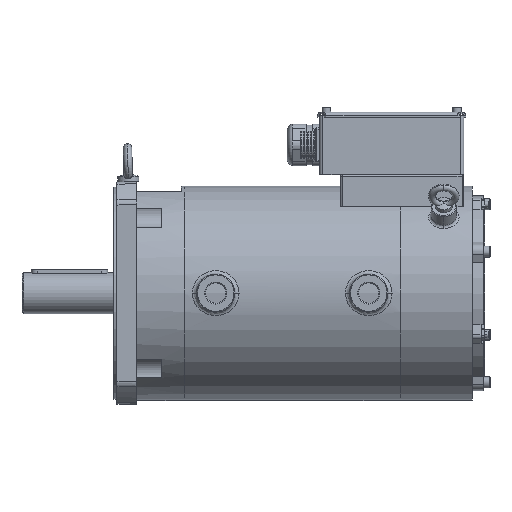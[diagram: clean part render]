
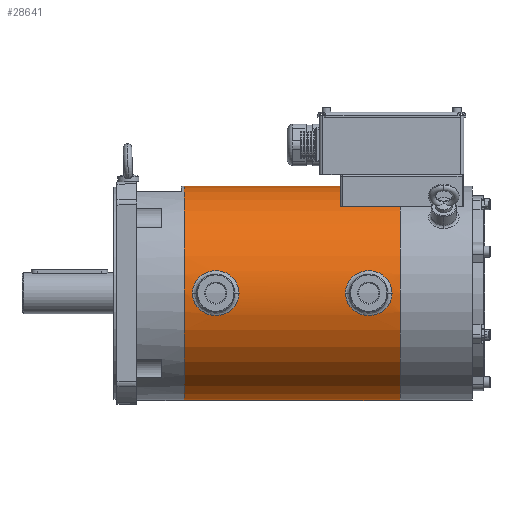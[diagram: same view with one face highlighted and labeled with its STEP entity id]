
A CAD part, top view. The second image highlights one B-rep face of the part: STEP entity #28641.
In plain terms, the highlighted cylindrical face has radius 126.5 mm (diameter 253 mm), a partial arc.
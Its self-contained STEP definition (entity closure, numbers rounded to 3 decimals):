
#24334=DIRECTION('',(-1.,0.,0.));
#24335=VECTOR('',#24334,254.5);
#24336=CARTESIAN_POINT('',(446.,126.5,
0.011));
#24337=LINE('',#24336,#24335);
#24455=CARTESIAN_POINT('',(446.,0.,
0.));
#24456=DIRECTION('',(1.,0.,0.));
#24457=DIRECTION('',(0.,1.,0.));
#24458=AXIS2_PLACEMENT_3D('',#24455,#24456,#24457);
#24460=DIRECTION('',(-1.,0.,0.));
#24461=VECTOR('',#24460,254.5);
#24462=CARTESIAN_POINT('',(446.,-126.5,
-0.011));
#24463=LINE('',#24462,#24461);
#24464=CARTESIAN_POINT('',(191.5,0.,
0.));
#24465=DIRECTION('',(-1.,0.,0.));
#24466=DIRECTION('',(0.,-1.,0.));
#24467=AXIS2_PLACEMENT_3D('',#24464,#24465,#24466);
#24469=CARTESIAN_POINT('',(381.5,-0.011,
126.5));
#24470=CARTESIAN_POINT('',(381.5,-1.744,
126.5));
#24471=CARTESIAN_POINT('',(381.85,-5.13,
126.429));
#24472=CARTESIAN_POINT('',(383.346,-9.984,
126.135));
#24473=CARTESIAN_POINT('',(385.817,-14.55,
125.686));
#24474=CARTESIAN_POINT('',(389.203,-18.619,
125.141));
#24475=CARTESIAN_POINT('',(393.393,-22.003,
124.584));
#24476=CARTESIAN_POINT('',(398.194,-24.525,
124.106));
#24477=CARTESIAN_POINT('',(403.402,-26.087,
123.782));
#24478=CARTESIAN_POINT('',(408.83,-26.637,
123.663));
#24479=CARTESIAN_POINT('',(414.267,-26.152,
123.768));
#24480=CARTESIAN_POINT('',(419.513,-24.643,
124.082));
#24481=CARTESIAN_POINT('',(424.335,-22.179,
124.552));
#24482=CARTESIAN_POINT('',(428.536,-18.863,
125.103));
#24483=CARTESIAN_POINT('',(431.891,-14.963,
125.636));
#24484=CARTESIAN_POINT('',(434.502,-10.379,
126.106));
#24485=CARTESIAN_POINT('',(436.144,-5.241,
126.427));
#24486=CARTESIAN_POINT('',(436.5,-1.778,
126.5));
#24487=CARTESIAN_POINT('',(436.5,-0.011,
126.5));
#24489=CARTESIAN_POINT('',(436.5,-0.011,
126.5));
#24490=CARTESIAN_POINT('',(436.5,1.721,126.5));
#24491=CARTESIAN_POINT('',(436.15,5.108,126.429));
#24492=CARTESIAN_POINT('',(434.654,9.962,126.137));
#24493=CARTESIAN_POINT('',(432.183,14.529,125.688));
#24494=CARTESIAN_POINT('',(428.796,18.599,125.144));
#24495=CARTESIAN_POINT('',(424.606,21.982,124.588));
#24496=CARTESIAN_POINT('',(419.806,24.503,124.11));
#24497=CARTESIAN_POINT('',(414.598,26.066,123.787));
#24498=CARTESIAN_POINT('',(409.17,26.616,123.668));
#24499=CARTESIAN_POINT('',(403.734,26.131,123.773));
#24500=CARTESIAN_POINT('',(398.489,24.622,124.086));
#24501=CARTESIAN_POINT('',(393.666,22.158,124.556));
#24502=CARTESIAN_POINT('',(389.465,18.842,125.107));
#24503=CARTESIAN_POINT('',(386.11,14.942,125.638));
#24504=CARTESIAN_POINT('',(383.498,10.357,126.108));
#24505=CARTESIAN_POINT('',(381.856,5.219,126.428));
#24506=CARTESIAN_POINT('',(381.5,1.756,126.5));
#24507=CARTESIAN_POINT('',(381.5,-0.011,
126.5));
#24509=CARTESIAN_POINT('',(201.,-0.011,
126.5));
#24510=CARTESIAN_POINT('',(201.,-1.744,
126.5));
#24511=CARTESIAN_POINT('',(201.35,-5.13,
126.429));
#24512=CARTESIAN_POINT('',(202.846,-9.984,
126.135));
#24513=CARTESIAN_POINT('',(205.317,-14.55,
125.686));
#24514=CARTESIAN_POINT('',(208.703,-18.619,
125.141));
#24515=CARTESIAN_POINT('',(212.893,-22.003,
124.584));
#24516=CARTESIAN_POINT('',(217.694,-24.525,
124.106));
#24517=CARTESIAN_POINT('',(222.902,-26.087,
123.782));
#24518=CARTESIAN_POINT('',(228.33,-26.637,
123.663));
#24519=CARTESIAN_POINT('',(233.767,-26.152,
123.768));
#24520=CARTESIAN_POINT('',(239.013,-24.643,
124.082));
#24521=CARTESIAN_POINT('',(243.835,-22.179,
124.552));
#24522=CARTESIAN_POINT('',(248.036,-18.863,
125.103));
#24523=CARTESIAN_POINT('',(251.391,-14.963,
125.636));
#24524=CARTESIAN_POINT('',(254.002,-10.379,
126.106));
#24525=CARTESIAN_POINT('',(255.644,-5.241,
126.427));
#24526=CARTESIAN_POINT('',(256.,-1.778,
126.5));
#24527=CARTESIAN_POINT('',(256.,-0.011,
126.5));
#24529=CARTESIAN_POINT('',(256.,-0.011,
126.5));
#24530=CARTESIAN_POINT('',(256.,1.721,126.5));
#24531=CARTESIAN_POINT('',(255.65,5.108,126.429));
#24532=CARTESIAN_POINT('',(254.154,9.962,126.137));
#24533=CARTESIAN_POINT('',(251.683,14.529,125.688));
#24534=CARTESIAN_POINT('',(248.296,18.599,125.144));
#24535=CARTESIAN_POINT('',(244.106,21.982,124.588));
#24536=CARTESIAN_POINT('',(239.306,24.503,124.11));
#24537=CARTESIAN_POINT('',(234.098,26.066,123.787));
#24538=CARTESIAN_POINT('',(228.67,26.616,123.668));
#24539=CARTESIAN_POINT('',(223.234,26.131,123.773));
#24540=CARTESIAN_POINT('',(217.989,24.622,124.086));
#24541=CARTESIAN_POINT('',(213.166,22.158,124.556));
#24542=CARTESIAN_POINT('',(208.965,18.842,125.107));
#24543=CARTESIAN_POINT('',(205.61,14.942,125.638));
#24544=CARTESIAN_POINT('',(202.998,10.357,126.108));
#24545=CARTESIAN_POINT('',(201.356,5.219,126.428));
#24546=CARTESIAN_POINT('',(201.,1.756,126.5));
#24547=CARTESIAN_POINT('',(201.,-0.011,
126.5));
#28344=CARTESIAN_POINT('',(446.,126.5,
0.011));
#28345=CARTESIAN_POINT('',(446.,-126.5,
-0.011));
#28346=VERTEX_POINT('',#28344);
#28347=VERTEX_POINT('',#28345);
#28348=CARTESIAN_POINT('',(191.5,126.5,
0.011));
#28349=CARTESIAN_POINT('',(191.5,-126.5,
-0.011));
#28350=VERTEX_POINT('',#28348);
#28351=VERTEX_POINT('',#28349);
#28548=VERTEX_POINT('',#24469);
#28549=VERTEX_POINT('',#24487);
#28552=VERTEX_POINT('',#24509);
#28553=VERTEX_POINT('',#24527);
#28616=CARTESIAN_POINT('',(446.,0.,
0.));
#28617=DIRECTION('',(-1.,0.,0.));
#28618=DIRECTION('',(0.,1.,0.));
#28619=AXIS2_PLACEMENT_3D('',#28616,#28617,#28618);
#28620=CYLINDRICAL_SURFACE('',#28619,126.5);
#28622=ORIENTED_EDGE('',*,*,#28621,.T.);
#28623=ORIENTED_EDGE('',*,*,#28599,.T.);
#28625=ORIENTED_EDGE('',*,*,#28624,.T.);
#28626=ORIENTED_EDGE('',*,*,#28595,.F.);
#28627=EDGE_LOOP('',(#28622,#28623,#28625,#28626));
#28628=FACE_OUTER_BOUND('',#28627,.F.);
#28630=ORIENTED_EDGE('',*,*,#28629,.T.);
#28632=ORIENTED_EDGE('',*,*,#28631,.T.);
#28633=EDGE_LOOP('',(#28630,#28632));
#28634=FACE_BOUND('',#28633,.F.);
#28636=ORIENTED_EDGE('',*,*,#28635,.T.);
#28638=ORIENTED_EDGE('',*,*,#28637,.T.);
#28639=EDGE_LOOP('',(#28636,#28638));
#28640=FACE_BOUND('',#28639,.F.);
#28641=ADVANCED_FACE('',(#28628,#28634,#28640),#28620,.T.);
#24459=CIRCLE('',#24458,126.5);
#24468=CIRCLE('',#24467,126.5);
#24488=B_SPLINE_CURVE_WITH_KNOTS('',3,(#24469,#24470,#24471,#24472,#24473,
#24474,#24475,#24476,#24477,#24478,#24479,#24480,#24481,#24482,#24483,#24484,
#24485,#24486,#24487),.UNSPECIFIED.,.F.,.F.,(4,1,1,1,1,1,1,1,1,1,1,1,1,1,1,1,4),
(0.,0.063,0.125,0.188,0.25,0.313,0.375,0.438,0.5,0.563,
0.625,0.688,0.75,0.813,0.875,0.938,1.),.UNSPECIFIED.);
#24508=B_SPLINE_CURVE_WITH_KNOTS('',3,(#24489,#24490,#24491,#24492,#24493,
#24494,#24495,#24496,#24497,#24498,#24499,#24500,#24501,#24502,#24503,#24504,
#24505,#24506,#24507),.UNSPECIFIED.,.F.,.F.,(4,1,1,1,1,1,1,1,1,1,1,1,1,1,1,1,4),
(0.,0.063,0.125,0.188,0.25,0.313,0.375,0.438,0.5,0.563,
0.625,0.688,0.75,0.813,0.875,0.938,1.),.UNSPECIFIED.);
#24528=B_SPLINE_CURVE_WITH_KNOTS('',3,(#24509,#24510,#24511,#24512,#24513,
#24514,#24515,#24516,#24517,#24518,#24519,#24520,#24521,#24522,#24523,#24524,
#24525,#24526,#24527),.UNSPECIFIED.,.F.,.F.,(4,1,1,1,1,1,1,1,1,1,1,1,1,1,1,1,4),
(0.,0.063,0.125,0.188,0.25,0.313,0.375,0.438,0.5,0.563,
0.625,0.688,0.75,0.813,0.875,0.938,1.),.UNSPECIFIED.);
#24548=B_SPLINE_CURVE_WITH_KNOTS('',3,(#24529,#24530,#24531,#24532,#24533,
#24534,#24535,#24536,#24537,#24538,#24539,#24540,#24541,#24542,#24543,#24544,
#24545,#24546,#24547),.UNSPECIFIED.,.F.,.F.,(4,1,1,1,1,1,1,1,1,1,1,1,1,1,1,1,4),
(0.,0.063,0.125,0.188,0.25,0.313,0.375,0.438,0.5,0.563,
0.625,0.688,0.75,0.813,0.875,0.938,1.),.UNSPECIFIED.);
#28595=EDGE_CURVE('',#28346,#28350,#24337,.T.);
#28599=EDGE_CURVE('',#28347,#28351,#24463,.T.);
#28621=EDGE_CURVE('',#28346,#28347,#24459,.T.);
#28624=EDGE_CURVE('',#28351,#28350,#24468,.T.);
#28629=EDGE_CURVE('',#28548,#28549,#24488,.T.);
#28631=EDGE_CURVE('',#28549,#28548,#24508,.T.);
#28635=EDGE_CURVE('',#28552,#28553,#24528,.T.);
#28637=EDGE_CURVE('',#28553,#28552,#24548,.T.);
